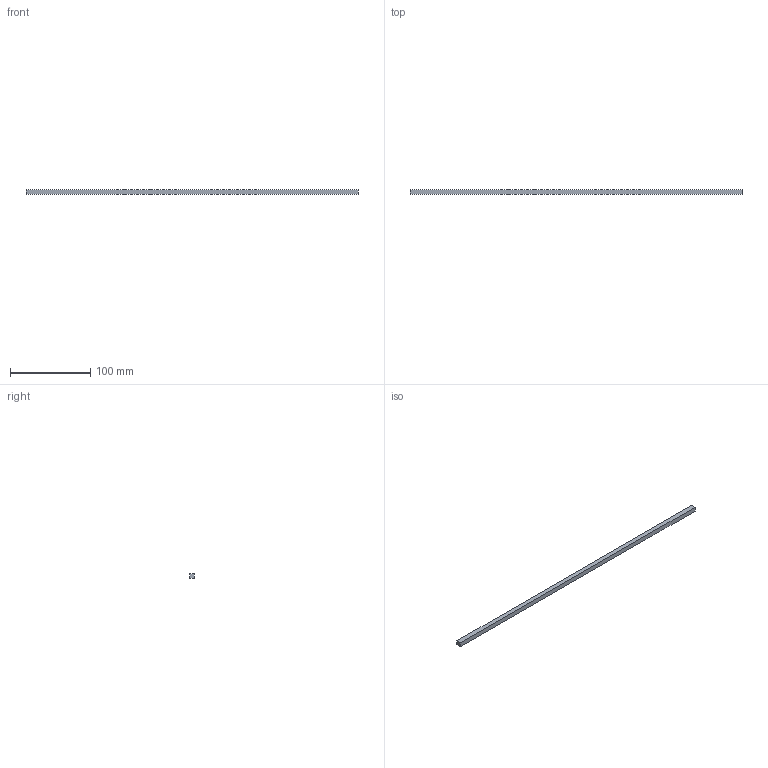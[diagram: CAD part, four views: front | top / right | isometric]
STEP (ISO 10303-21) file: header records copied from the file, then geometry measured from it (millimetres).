
FILE_DESCRIPTION (( 'STEP AP214' ), '1' );
FILE_NAME ('Sensotronic-Antriebswelle_KAB-600.step', '2010-10-15T08:37:52', ( 'grass' ), ( '' ), 'SwSTEP 2.0', 'SolidWorks 2010', '' );
FILE_SCHEMA (( 'AUTOMOTIVE_DESIGN' ));
Length unit declared in the file: millimetre
Products named in the file (1): Sensotronic-Antriebswelle_KAB-600
Bounding box: 414.5 x 6 x 6 mm (x, y, z)
Volume: 14922 mm3; surface area: 10020 mm2
Topology: 1 solids, 1 shells, 6 faces, 12 edges, 8 vertices
Faces by surface type: plane 6
Entity records: 190 total; most frequent: CARTESIAN_POINT 27, DIRECTION 26, ORIENTED_EDGE 24, LINE 12, VECTOR 12, EDGE_CURVE 12, VERTEX_POINT 8, AXIS2_PLACEMENT_3D 7
